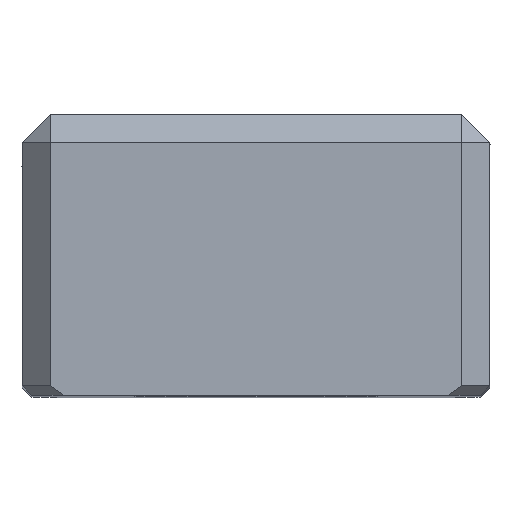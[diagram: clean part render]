
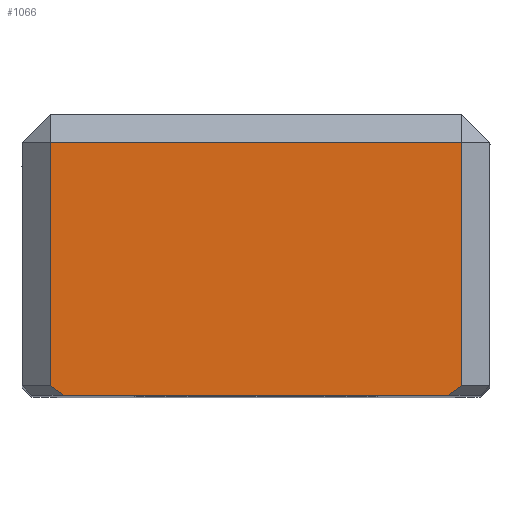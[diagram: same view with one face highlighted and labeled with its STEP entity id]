
A CAD part, top view. The second image highlights one B-rep face of the part: STEP entity #1066.
In plain terms, the highlighted planar face has unit normal (0, 0, 1).
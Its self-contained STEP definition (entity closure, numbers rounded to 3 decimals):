
#1023=AXIS2_PLACEMENT_3D('Plane Axis2P3D',#1020,#1021,#1022) ;
#456=CARTESIAN_POINT('Vertex',(-22.,-3.,0.)) ;
#459=CARTESIAN_POINT('Line Origine',(0.,-3.,0.)) ;
#463=CARTESIAN_POINT('Vertex',(22.,-3.,0.)) ;
#1020=CARTESIAN_POINT('Axis2P3D Location',(25.,0.,0.)) ;
#1025=CARTESIAN_POINT('Line Origine',(21.293,-29.5,0.)) ;
#1029=CARTESIAN_POINT('Vertex',(22.,-29.,0.)) ;
#1031=CARTESIAN_POINT('Vertex',(20.586,-30.,0.)) ;
#1034=CARTESIAN_POINT('Line Origine',(22.,-16.,0.)) ;
#1039=CARTESIAN_POINT('Line Origine',(-22.,-16.,0.)) ;
#1043=CARTESIAN_POINT('Vertex',(-22.,-29.,0.)) ;
#1046=CARTESIAN_POINT('Line Origine',(-21.293,-29.5,0.)) ;
#1050=CARTESIAN_POINT('Vertex',(-20.586,-30.,0.)) ;
#1053=CARTESIAN_POINT('Line Origine',(0.,-30.,0.)) ;
#460=DIRECTION('Vector Direction',(1.,0.,0.)) ;
#1021=DIRECTION('Axis2P3D Direction',(0.,0.,1.)) ;
#1022=DIRECTION('Axis2P3D XDirection',(-1.,0.,0.)) ;
#1026=DIRECTION('Vector Direction',(0.816,0.577,0.)) ;
#1035=DIRECTION('Vector Direction',(0.,-1.,0.)) ;
#1040=DIRECTION('Vector Direction',(0.,1.,0.)) ;
#1047=DIRECTION('Vector Direction',(0.816,-0.577,0.)) ;
#1054=DIRECTION('Vector Direction',(1.,0.,0.)) ;
#461=VECTOR('Line Direction',#460,1.) ;
#1027=VECTOR('Line Direction',#1026,1.) ;
#1036=VECTOR('Line Direction',#1035,1.) ;
#1041=VECTOR('Line Direction',#1040,1.) ;
#1048=VECTOR('Line Direction',#1047,1.) ;
#1055=VECTOR('Line Direction',#1054,1.) ;
#1059=ORIENTED_EDGE('',*,*,#1033,.F.) ;
#1060=ORIENTED_EDGE('',*,*,#1038,.F.) ;
#1061=ORIENTED_EDGE('',*,*,#465,.F.) ;
#1062=ORIENTED_EDGE('',*,*,#1045,.F.) ;
#1063=ORIENTED_EDGE('',*,*,#1052,.F.) ;
#1064=ORIENTED_EDGE('',*,*,#1057,.T.) ;
#1066=ADVANCED_FACE('MANIFOLD_SOLID_BREP #2896',(#1065),#1024,.T.) ;
#465=EDGE_CURVE('',#457,#464,#462,.T.) ;
#1033=EDGE_CURVE('',#1030,#1032,#1028,.F.) ;
#1038=EDGE_CURVE('',#464,#1030,#1037,.T.) ;
#1045=EDGE_CURVE('',#1044,#457,#1042,.T.) ;
#1052=EDGE_CURVE('',#1051,#1044,#1049,.F.) ;
#1057=EDGE_CURVE('',#1051,#1032,#1056,.T.) ;
#1058=EDGE_LOOP('',(#1059,#1060,#1061,#1062,#1063,#1064)) ;
#1065=FACE_OUTER_BOUND('',#1058,.T.) ;
#462=LINE('Line',#459,#461) ;
#1028=LINE('Line',#1025,#1027) ;
#1037=LINE('Line',#1034,#1036) ;
#1042=LINE('Line',#1039,#1041) ;
#1049=LINE('Line',#1046,#1048) ;
#1056=LINE('Line',#1053,#1055) ;
#1024=PLANE('Plane',#1023) ;
#457=VERTEX_POINT('',#456) ;
#464=VERTEX_POINT('',#463) ;
#1030=VERTEX_POINT('',#1029) ;
#1032=VERTEX_POINT('',#1031) ;
#1044=VERTEX_POINT('',#1043) ;
#1051=VERTEX_POINT('',#1050) ;
